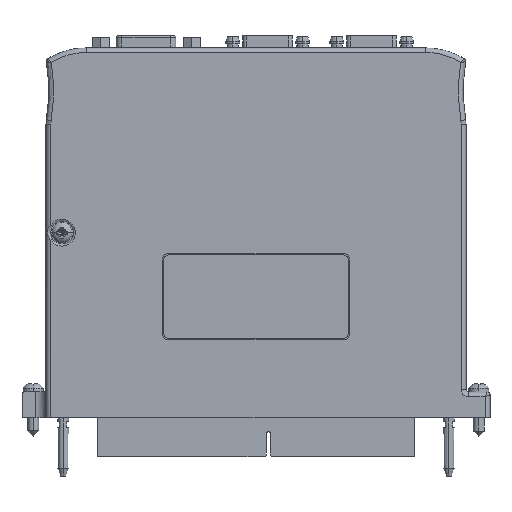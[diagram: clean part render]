
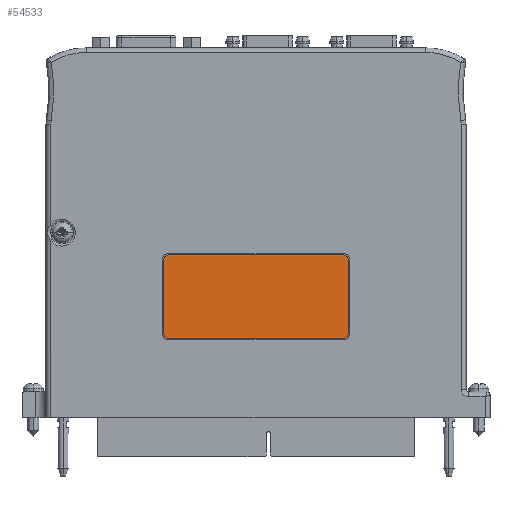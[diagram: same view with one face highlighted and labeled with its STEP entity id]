
A CAD part, left-side view. The second image highlights one B-rep face of the part: STEP entity #54533.
In plain terms, the highlighted planar face has unit normal (-1, 0, 0).
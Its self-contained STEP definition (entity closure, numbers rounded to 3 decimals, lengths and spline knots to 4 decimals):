
#12847=CARTESIAN_POINT('',(-0.394,0.938,1.699));
#12848=DIRECTION('',(-1.,0.,0.));
#12849=DIRECTION('',(0.,0.,1.));
#12850=AXIS2_PLACEMENT_3D('',#12847,#12848,#12849);
#12852=DIRECTION('',(0.,1.,0.));
#12853=VECTOR('',#12852,1.876);
#12854=CARTESIAN_POINT('',(-0.394,-0.938,1.761));
#12855=LINE('',#12854,#12853);
#12856=CARTESIAN_POINT('',(-0.394,-0.938,1.699));
#12857=DIRECTION('',(-1.,0.,0.));
#12858=DIRECTION('',(0.,-1.,0.));
#12859=AXIS2_PLACEMENT_3D('',#12856,#12857,#12858);
#12861=DIRECTION('',(0.,0.,1.));
#12862=VECTOR('',#12861,0.782);
#12863=CARTESIAN_POINT('',(-0.394,-1.,0.917));
#12864=LINE('',#12863,#12862);
#12865=CARTESIAN_POINT('',(-0.394,-0.938,0.917));
#12866=DIRECTION('',(-1.,0.,0.));
#12867=DIRECTION('',(0.,0.,-1.));
#12868=AXIS2_PLACEMENT_3D('',#12865,#12866,#12867);
#12870=DIRECTION('',(0.,-1.,0.));
#12871=VECTOR('',#12870,1.876);
#12872=CARTESIAN_POINT('',(-0.394,0.938,0.855));
#12873=LINE('',#12872,#12871);
#12874=CARTESIAN_POINT('',(-0.394,0.938,0.917));
#12875=DIRECTION('',(-1.,0.,0.));
#12876=DIRECTION('',(0.,1.,0.));
#12877=AXIS2_PLACEMENT_3D('',#12874,#12875,#12876);
#12879=DIRECTION('',(0.,0.,-1.));
#12880=VECTOR('',#12879,0.782);
#12881=CARTESIAN_POINT('',(-0.394,1.,1.699));
#12882=LINE('',#12881,#12880);
#35165=CARTESIAN_POINT('',(-0.394,0.938,1.761));
#35166=CARTESIAN_POINT('',(-0.394,1.,1.699));
#35167=VERTEX_POINT('',#35165);
#35168=VERTEX_POINT('',#35166);
#35169=CARTESIAN_POINT('',(-0.394,-1.,1.699));
#35170=CARTESIAN_POINT('',(-0.394,-0.938,1.761));
#35171=VERTEX_POINT('',#35169);
#35172=VERTEX_POINT('',#35170);
#35173=CARTESIAN_POINT('',(-0.394,-0.938,0.855));
#35174=CARTESIAN_POINT('',(-0.394,-1.,0.917));
#35175=VERTEX_POINT('',#35173);
#35176=VERTEX_POINT('',#35174);
#35177=CARTESIAN_POINT('',(-0.394,1.,0.917));
#35178=CARTESIAN_POINT('',(-0.394,0.938,0.855));
#35179=VERTEX_POINT('',#35177);
#35180=VERTEX_POINT('',#35178);
#54518=CARTESIAN_POINT('',(-0.394,-1.,1.761));
#54519=DIRECTION('',(-1.,0.,0.));
#54520=DIRECTION('',(0.,1.,0.));
#54521=AXIS2_PLACEMENT_3D('',#54518,#54519,#54520);
#54522=PLANE('',#54521);
#54523=ORIENTED_EDGE('',*,*,#54512,.F.);
#54524=ORIENTED_EDGE('',*,*,#54414,.F.);
#54525=ORIENTED_EDGE('',*,*,#54429,.F.);
#54526=ORIENTED_EDGE('',*,*,#54443,.F.);
#54527=ORIENTED_EDGE('',*,*,#54457,.F.);
#54528=ORIENTED_EDGE('',*,*,#54471,.F.);
#54529=ORIENTED_EDGE('',*,*,#54485,.F.);
#54530=ORIENTED_EDGE('',*,*,#54499,.F.);
#54531=EDGE_LOOP('',(#54523,#54524,#54525,#54526,#54527,#54528,#54529,#54530));
#54532=FACE_OUTER_BOUND('',#54531,.F.);
#54533=ADVANCED_FACE('',(#54532),#54522,.T.);
#12851=CIRCLE('',#12850,0.062);
#12860=CIRCLE('',#12859,0.062);
#12869=CIRCLE('',#12868,0.062);
#12878=CIRCLE('',#12877,0.062);
#54414=EDGE_CURVE('',#35172,#35167,#12855,.T.);
#54429=EDGE_CURVE('',#35171,#35172,#12860,.T.);
#54443=EDGE_CURVE('',#35176,#35171,#12864,.T.);
#54457=EDGE_CURVE('',#35175,#35176,#12869,.T.);
#54471=EDGE_CURVE('',#35180,#35175,#12873,.T.);
#54485=EDGE_CURVE('',#35179,#35180,#12878,.T.);
#54499=EDGE_CURVE('',#35168,#35179,#12882,.T.);
#54512=EDGE_CURVE('',#35167,#35168,#12851,.T.);
